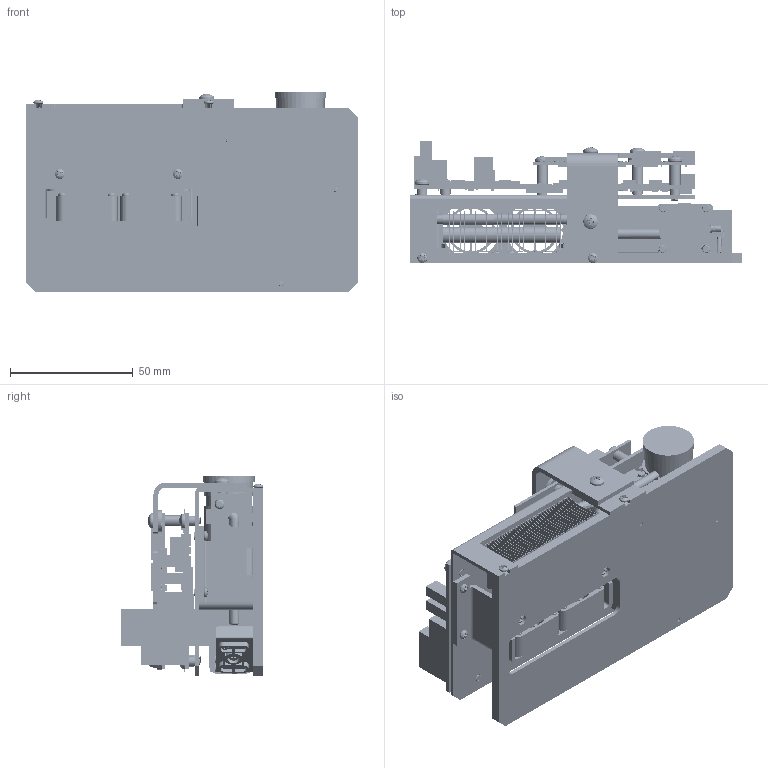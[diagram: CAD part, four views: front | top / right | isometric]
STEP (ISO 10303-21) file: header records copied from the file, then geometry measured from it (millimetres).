
FILE_DESCRIPTION (( 'STEP AP214' ), '1' );
FILE_NAME ('3010-EVM-G2-SS-TOP-ASSEMBLY.STEP', '2017-08-25T20:10:24', ( '' ), ( '' ), 'SwSTEP 2.0', 'SolidWorks 2016', '' );
FILE_SCHEMA (( 'AUTOMOTIVE_DESIGN' ));
Length unit declared in the file: millimetre
Products named in the file (180): 0603_PASCAPNPLARGE_0603_22UF-12-03-2016; CONN19_HDMI_C_2001122100BK_CNC_HDMIMINI RECEPTACLE W MHL _CO -VER2-SS; 0402_PASRLARGE_0402_274K -VER2-SS; SHANE-PRT0020; GT11MSCBE_EMSWSPDTGT11_GT11MSCBE_GT11M -VER2-SS; 0402_PASCAPNPLARGE_0402_1UF -VER2-SS; 20MIL_PAD_BFHOLEPLATEDTESTPIN_20MIL_PA-12-03-2016; NDK_EXS00ACS05733_XTAL_NX3225GA_NDK_EXS00ACS0573-12-03-2016; 1206_PASDIODELEDLARGE_1206_BLUE -VER2-SS; 90116A022_90116A022; 0603_PASCAPNPLARGE_0603_10UF-12-3-2016-12-03-2016; CONN5_USB_B_MINI_MOLEX_CON5_1_CONN5_USB_B_MINI_MOLEX_U -VER2-SS; 0402_FERRITE CHIP 120 OHM 15A 0402_ -VER2-SS; SHANE-PRT0019; 0402_PASRLARGE_0402_10K-12-3-2016-12-03-2016; 0402_PASRLARGE_0402_976K -VER2-SS; HOLE_PLATED_40MIL_DRILL_60MIL_PAD_BFHOLEPLATEDTESTPIN_HOLE_PLA-12-03-2016; SAMTEC_QSH030XXXDA_EMCONN60PQSX_SAMTEC_QSH030-12-03-2016; 900-0021-00 H6; PANASONIC_AXT550124_COUNTER_CLKWISE_PINOUT_EMCONN50P2RCNTR_CW_PINOUT_P-12-03-2016; CONN4S4BEH_JST_EMCONN4PEHDEVASYS_CONN4S4B -VER2-SS; SHANE-PRT0018; SOT233_DIODE DUAL SCHOTT COMMON CATH_S -VER2-SS; 0402_PASRLARGE_0402_150 -VER2-SS; 11182601_1020-12-3-2016-12-3-2016-12-03-2016; 0201_PASRLARGE_0201_43-12-03-2016; 1206_PASCAPNPLARGE_1206_22UF -VER2-SS; 3010-EVM-G2-ENGINE-BASE-SS; 1206_PASCAPNPLARGE_1206_1200PF-12-03-2016; 8SOPWRPAD_DDA_RPDSOG8_RT8272SOP8_7_8SOPWRPAD_DDA_R -VER2-SS; 0402_PASRLARGE_0402_10 -VER2-SS; SHANE-PRT0017; 0402_PASRLARGE_0402_787K-12-03-2016; 0402_PASRLARGE_0402_15K -VER2-SS; BLM15P_PASFERRITE BEAD3_BLM15P_BLM15-12-03-2016; 0805_PASRLARGE_0805_191K -VER2-SS; HDR2P_1R_2POS SMT HEADER 2_054MM_HDR -VER2-SS; 0402_PASRLARGE_0402_0 -VER2-SS; SHANE-PRT0016; 0402_PASCAPNPLARGE_0402_22UF-12-3-2016-12-03-2016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
Assembly tree (522 placements, depth 4):
  8SOPWRPAD_DDA_RPDSOG8_RT8272SOP8_7_8SOPWRPAD_DDA_R -VER2-SS
  3010-EVM-G2-SS-TOP-ASSEMBLY
    3010-EVM-G2-ENGINE-BASE-SS
    900-0021-00 H6
    90116A022_90116A022  x3
    P5_32FIN_ASM
      SHANREQI_ASM_1-1_ASM_13_ASM_ASM_ASM
        SHANE-PRT0001
        SHANE-PRT0002_1
        SHANE-PRT0003
        SHANE-PRT0004
        SHANE-PRT0005
        SHANE-PRT0008
        SHANE-PRT0009
        SHANE-PRT0010
        SHANE-PRT0011
        SHANE-PRT0012
        SHANE-PRT0013
        SHANE-PRT0014
        SHANE-PRT0015
        SHANE-PRT0016
        SHANE-PRT0017
        SHANE-PRT0018
        SHANE-PRT0019
        SHANE-PRT0020
        SHANE-PRT0021
        SHANE-PRT0022  x15
      SHANE-PRT0011
    SFE-M1.7-5-A2  x8
    92005A023_METRIC PAN HEAD PHILLIPS MACHINE SCREW_92005A023  x4
    3010-EVM-G2-ELECT-ASM
      3010-EVM-G2-MAIN-BOARD-MOUNT
        3010-EVM-G2-MAIN-BOARD-MOUNT
        SO4-M3-4  x7
        MS04-M2-2  x4
      3010-EVM-G2-FAN-MOUNT-SS
      92000A011_18-8 SS METRIC PAN HEAD PHIL MACHINE SCREW_92000A011  x4
      259-1557-ND  x2
      92000A007_92000A007  x8
      94669A103_94669A103  x4
      DLPDLCR3010EVM-G2_DisplayBoard
        11182601_1020-12-3-2016-12-3-2016-12-03-2016
        HOLE_PLATED_40MIL_DRILL_60MIL_PAD_BFHOLEPLATEDTESTPIN_HOLE_PLA-12-03-2016  x25
        20MIL_PAD_BFHOLEPLATEDTESTPIN_20MIL_PA-12-03-2016  x9
        COILCRAFT_LPS4018_PASINDUCTOR LARGE_COILCRAFT_L-12-03-2016
        DPP3433_7MMX7MM_VFBGA_176BALLS_TIDLPDPP3430_DPP3433_7MMX7MM_V-12-03-2016
        SOIC8_208MIL_MEMFLASHSERIALW25XXXALXNIG_S-12-03-2016
        PAD3000_PQFP_100_TIDLPPAD3000_V2_5_PAD3000_PQFP-12-03-2016
        60MIL_PAD_BFHOLEPLATEDTESTPIN_60MIL_PA-12-03-2016  x2
        COILCRAFT_XAL70300_PASINDUCTOR LARGE_COILCRAFT_X-12-03-2016
        IHLP2020BZER_PASINDUCTOR LARGE_IHLP2020BZE-12-03-2016  x2
        MOLEX_0874380643_EMHDR6P1R2X_MOLEX_087438064-12-03-2016  x3
        2010_PASRLARGE_2010_0025-12-03-2016
        SOD523_PASDIODETVSLARGE_SOD523_ESDA-12-03-2016  x3
        SOD123_PASDIODESCHOTTKYLARGE_SOD123-12-03-2016
        1206_PASCAPNPLARGE_1206_22UF-12-03-2016  x6
        1206_PASCAPNPLARGE_1206_1200PF-12-03-2016
        PANASONIC_AXT550124_COUNTER_CLKWISE_PINOUT_EMCONN50P2RCNTR_CW_PINOUT_P-12-03-2016
        0603_PASCAPNPLARGE_0603_10UF-12-3-2016-12-03-2016  x3
        0603_PASCAPNPLARGE_0603_22UF-12-03-2016  x4
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Bounding box: 135 x 57.88 x 81.34 mm (x, y, z)
Volume: 153666.3 mm3; surface area: 155317.1 mm2
Topology: 515 solids, 530 shells, 11459 faces, 29988 edges, 19832 vertices
Faces by surface type: cylinder 5748, plane 4825, bspline 432, cone 284, torus 116, sphere 54
Entity records: 226390 total; most frequent: CARTESIAN_POINT 59027, ORIENTED_EDGE 30050, DIRECTION 29114, EDGE_CURVE 15025, AXIS2_PLACEMENT_3D 10341, VERTEX_POINT 9916, VECTOR 8432, LINE 8432
